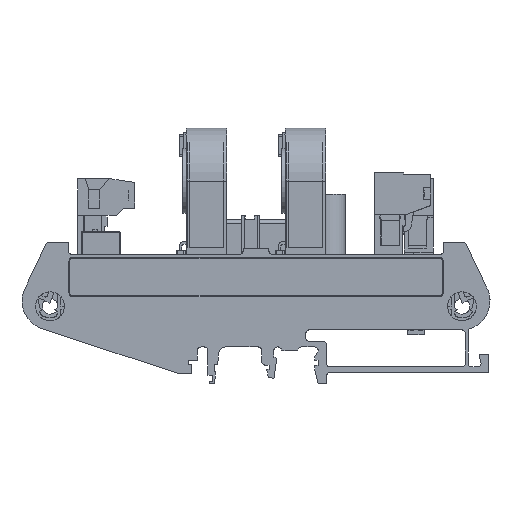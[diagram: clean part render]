
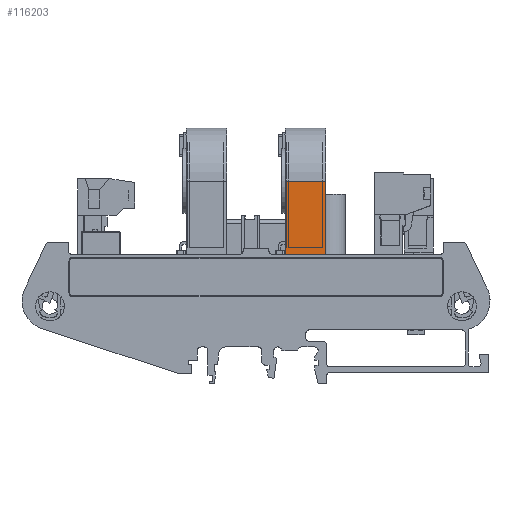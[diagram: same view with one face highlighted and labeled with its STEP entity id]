
A CAD part, left-side view. The second image highlights one B-rep face of the part: STEP entity #116203.
In plain terms, the highlighted planar face has unit normal (-1, 0, 0) as drawn and (1, 0, 0) by its records, which use the part's own axes.
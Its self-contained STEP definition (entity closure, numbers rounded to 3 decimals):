
#107264 = PLANE('',#107265);
#107265 = AXIS2_PLACEMENT_3D('',#107266,#107267,#107268);
#107266 = CARTESIAN_POINT('',(0.,5.,-1.));
#107267 = DIRECTION('',(0.,0.,1.));
#107268 = DIRECTION('',(1.,0.,-0.));
#110387 = VERTEX_POINT('',#110388);
#110388 = CARTESIAN_POINT('',(39.,5.,-1.));
#110402 = PLANE('',#110403);
#110403 = AXIS2_PLACEMENT_3D('',#110404,#110405,#110406);
#110404 = CARTESIAN_POINT('',(0.,5.,-12.));
#110405 = DIRECTION('',(0.,-1.,0.));
#110406 = DIRECTION('',(1.,0.,0.));
#110606 = VERTEX_POINT('',#110607);
#110607 = CARTESIAN_POINT('',(39.,25.,-1.));
#110622 = CYLINDRICAL_SURFACE('',#110623,14.5);
#110623 = AXIS2_PLACEMENT_3D('',#110624,#110625,#110626);
#110624 = CARTESIAN_POINT('',(24.5,25.,-12.));
#110625 = DIRECTION('',(0.,0.,1.));
#110626 = DIRECTION('',(1.,0.,-0.));
#110634 = EDGE_CURVE('',#110387,#110606,#110635,.T.);
#110635 = SURFACE_CURVE('',#110636,(#110640,#110647),.PCURVE_S1.);
#110636 = LINE('',#110637,#110638);
#110637 = CARTESIAN_POINT('',(39.,5.,-1.));
#110638 = VECTOR('',#110639,1.);
#110639 = DIRECTION('',(0.,1.,0.));
#110640 = PCURVE('',#107264,#110641);
#110641 = DEFINITIONAL_REPRESENTATION('',(#110642),#110646);
#110642 = LINE('',#110643,#110644);
#110643 = CARTESIAN_POINT('',(39.,0.));
#110644 = VECTOR('',#110645,1.);
#110645 = DIRECTION('',(0.,1.));
#110646 = ( GEOMETRIC_REPRESENTATION_CONTEXT(2) 
PARAMETRIC_REPRESENTATION_CONTEXT() REPRESENTATION_CONTEXT('2D SPACE',''
  ) );
#110647 = PCURVE('',#110648,#110653);
#110648 = PLANE('',#110649);
#110649 = AXIS2_PLACEMENT_3D('',#110650,#110651,#110652);
#110650 = CARTESIAN_POINT('',(39.,5.,-12.));
#110651 = DIRECTION('',(1.,0.,0.));
#110652 = DIRECTION('',(-0.,1.,0.));
#110653 = DEFINITIONAL_REPRESENTATION('',(#110654),#110658);
#110654 = LINE('',#110655,#110656);
#110655 = CARTESIAN_POINT('',(0.,11.));
#110656 = VECTOR('',#110657,1.);
#110657 = DIRECTION('',(1.,0.));
#110658 = ( GEOMETRIC_REPRESENTATION_CONTEXT(2) 
PARAMETRIC_REPRESENTATION_CONTEXT() REPRESENTATION_CONTEXT('2D SPACE',''
  ) );
#115606 = EDGE_CURVE('',#115607,#110387,#115609,.T.);
#115607 = VERTEX_POINT('',#115608);
#115608 = CARTESIAN_POINT('',(39.,5.,-9.4));
#115609 = SURFACE_CURVE('',#115610,(#115614,#115621),.PCURVE_S1.);
#115610 = LINE('',#115611,#115612);
#115611 = CARTESIAN_POINT('',(39.,5.,-9.4));
#115612 = VECTOR('',#115613,1.);
#115613 = DIRECTION('',(0.,0.,1.));
#115614 = PCURVE('',#110402,#115615);
#115615 = DEFINITIONAL_REPRESENTATION('',(#115616),#115620);
#115616 = LINE('',#115617,#115618);
#115617 = CARTESIAN_POINT('',(39.,2.6));
#115618 = VECTOR('',#115619,1.);
#115619 = DIRECTION('',(0.,1.));
#115620 = ( GEOMETRIC_REPRESENTATION_CONTEXT(2) 
PARAMETRIC_REPRESENTATION_CONTEXT() REPRESENTATION_CONTEXT('2D SPACE',''
  ) );
#115621 = PCURVE('',#110648,#115622);
#115622 = DEFINITIONAL_REPRESENTATION('',(#115623),#115627);
#115623 = LINE('',#115624,#115625);
#115624 = CARTESIAN_POINT('',(0.,2.6));
#115625 = VECTOR('',#115626,1.);
#115626 = DIRECTION('',(0.,1.));
#115627 = ( GEOMETRIC_REPRESENTATION_CONTEXT(2) 
PARAMETRIC_REPRESENTATION_CONTEXT() REPRESENTATION_CONTEXT('2D SPACE',''
  ) );
#115645 = PLANE('',#115646);
#115646 = AXIS2_PLACEMENT_3D('',#115647,#115648,#115649);
#115647 = CARTESIAN_POINT('',(39.,5.,-9.4));
#115648 = DIRECTION('',(0.,0.,1.));
#115649 = DIRECTION('',(-1.,0.,0.));
#115699 = PLANE('',#115700);
#115700 = AXIS2_PLACEMENT_3D('',#115701,#115702,#115703);
#115701 = CARTESIAN_POINT('',(0.,5.,-12.));
#115702 = DIRECTION('',(0.,0.,1.));
#115703 = DIRECTION('',(1.,0.,-0.));
#116159 = EDGE_CURVE('',#116160,#110606,#116162,.T.);
#116160 = VERTEX_POINT('',#116161);
#116161 = CARTESIAN_POINT('',(39.,25.,-12.));
#116162 = SURFACE_CURVE('',#116163,(#116167,#116174),.PCURVE_S1.);
#116163 = LINE('',#116164,#116165);
#116164 = CARTESIAN_POINT('',(39.,25.,-12.));
#116165 = VECTOR('',#116166,1.);
#116166 = DIRECTION('',(0.,0.,1.));
#116167 = PCURVE('',#110622,#116168);
#116168 = DEFINITIONAL_REPRESENTATION('',(#116169),#116173);
#116169 = LINE('',#116170,#116171);
#116170 = CARTESIAN_POINT('',(0.,0.));
#116171 = VECTOR('',#116172,1.);
#116172 = DIRECTION('',(0.,1.));
#116173 = ( GEOMETRIC_REPRESENTATION_CONTEXT(2) 
PARAMETRIC_REPRESENTATION_CONTEXT() REPRESENTATION_CONTEXT('2D SPACE',''
  ) );
#116174 = PCURVE('',#110648,#116175);
#116175 = DEFINITIONAL_REPRESENTATION('',(#116176),#116180);
#116176 = LINE('',#116177,#116178);
#116177 = CARTESIAN_POINT('',(20.,0.));
#116178 = VECTOR('',#116179,1.);
#116179 = DIRECTION('',(0.,1.));
#116180 = ( GEOMETRIC_REPRESENTATION_CONTEXT(2) 
PARAMETRIC_REPRESENTATION_CONTEXT() REPRESENTATION_CONTEXT('2D SPACE',''
  ) );
#116203 = ADVANCED_FACE('',(#116204),#110648,.T.);
#116204 = FACE_BOUND('',#116205,.F.);
#116205 = EDGE_LOOP('',(#116206,#116229,#116257,#116278,#116279,#116280)
  );
#116206 = ORIENTED_EDGE('',*,*,#116207,.T.);
#116207 = EDGE_CURVE('',#116160,#116208,#116210,.T.);
#116208 = VERTEX_POINT('',#116209);
#116209 = CARTESIAN_POINT('',(39.,3.7,-12.));
#116210 = SURFACE_CURVE('',#116211,(#116215,#116222),.PCURVE_S1.);
#116211 = LINE('',#116212,#116213);
#116212 = CARTESIAN_POINT('',(39.,25.,-12.));
#116213 = VECTOR('',#116214,1.);
#116214 = DIRECTION('',(0.,-1.,0.));
#116215 = PCURVE('',#110648,#116216);
#116216 = DEFINITIONAL_REPRESENTATION('',(#116217),#116221);
#116217 = LINE('',#116218,#116219);
#116218 = CARTESIAN_POINT('',(20.,0.));
#116219 = VECTOR('',#116220,1.);
#116220 = DIRECTION('',(-1.,0.));
#116221 = ( GEOMETRIC_REPRESENTATION_CONTEXT(2) 
PARAMETRIC_REPRESENTATION_CONTEXT() REPRESENTATION_CONTEXT('2D SPACE',''
  ) );
#116222 = PCURVE('',#115699,#116223);
#116223 = DEFINITIONAL_REPRESENTATION('',(#116224),#116228);
#116224 = LINE('',#116225,#116226);
#116225 = CARTESIAN_POINT('',(39.,20.));
#116226 = VECTOR('',#116227,1.);
#116227 = DIRECTION('',(0.,-1.));
#116228 = ( GEOMETRIC_REPRESENTATION_CONTEXT(2) 
PARAMETRIC_REPRESENTATION_CONTEXT() REPRESENTATION_CONTEXT('2D SPACE',''
  ) );
#116229 = ORIENTED_EDGE('',*,*,#116230,.T.);
#116230 = EDGE_CURVE('',#116208,#116231,#116233,.T.);
#116231 = VERTEX_POINT('',#116232);
#116232 = CARTESIAN_POINT('',(39.,3.7,-9.4));
#116233 = SURFACE_CURVE('',#116234,(#116238,#116245),.PCURVE_S1.);
#116234 = LINE('',#116235,#116236);
#116235 = CARTESIAN_POINT('',(39.,3.7,-12.));
#116236 = VECTOR('',#116237,1.);
#116237 = DIRECTION('',(0.,0.,1.));
#116238 = PCURVE('',#110648,#116239);
#116239 = DEFINITIONAL_REPRESENTATION('',(#116240),#116244);
#116240 = LINE('',#116241,#116242);
#116241 = CARTESIAN_POINT('',(-1.3,0.));
#116242 = VECTOR('',#116243,1.);
#116243 = DIRECTION('',(0.,1.));
#116244 = ( GEOMETRIC_REPRESENTATION_CONTEXT(2) 
PARAMETRIC_REPRESENTATION_CONTEXT() REPRESENTATION_CONTEXT('2D SPACE',''
  ) );
#116245 = PCURVE('',#116246,#116251);
#116246 = PLANE('',#116247);
#116247 = AXIS2_PLACEMENT_3D('',#116248,#116249,#116250);
#116248 = CARTESIAN_POINT('',(0.,3.7,-12.));
#116249 = DIRECTION('',(0.,-1.,0.));
#116250 = DIRECTION('',(1.,0.,0.));
#116251 = DEFINITIONAL_REPRESENTATION('',(#116252),#116256);
#116252 = LINE('',#116253,#116254);
#116253 = CARTESIAN_POINT('',(39.,0.));
#116254 = VECTOR('',#116255,1.);
#116255 = DIRECTION('',(0.,1.));
#116256 = ( GEOMETRIC_REPRESENTATION_CONTEXT(2) 
PARAMETRIC_REPRESENTATION_CONTEXT() REPRESENTATION_CONTEXT('2D SPACE',''
  ) );
#116257 = ORIENTED_EDGE('',*,*,#116258,.F.);
#116258 = EDGE_CURVE('',#115607,#116231,#116259,.T.);
#116259 = SURFACE_CURVE('',#116260,(#116264,#116271),.PCURVE_S1.);
#116260 = LINE('',#116261,#116262);
#116261 = CARTESIAN_POINT('',(39.,5.,-9.4));
#116262 = VECTOR('',#116263,1.);
#116263 = DIRECTION('',(0.,-1.,0.));
#116264 = PCURVE('',#110648,#116265);
#116265 = DEFINITIONAL_REPRESENTATION('',(#116266),#116270);
#116266 = LINE('',#116267,#116268);
#116267 = CARTESIAN_POINT('',(0.,2.6));
#116268 = VECTOR('',#116269,1.);
#116269 = DIRECTION('',(-1.,0.));
#116270 = ( GEOMETRIC_REPRESENTATION_CONTEXT(2) 
PARAMETRIC_REPRESENTATION_CONTEXT() REPRESENTATION_CONTEXT('2D SPACE',''
  ) );
#116271 = PCURVE('',#115645,#116272);
#116272 = DEFINITIONAL_REPRESENTATION('',(#116273),#116277);
#116273 = LINE('',#116274,#116275);
#116274 = CARTESIAN_POINT('',(0.,0.));
#116275 = VECTOR('',#116276,1.);
#116276 = DIRECTION('',(0.,1.));
#116277 = ( GEOMETRIC_REPRESENTATION_CONTEXT(2) 
PARAMETRIC_REPRESENTATION_CONTEXT() REPRESENTATION_CONTEXT('2D SPACE',''
  ) );
#116278 = ORIENTED_EDGE('',*,*,#115606,.T.);
#116279 = ORIENTED_EDGE('',*,*,#110634,.T.);
#116280 = ORIENTED_EDGE('',*,*,#116159,.F.);
